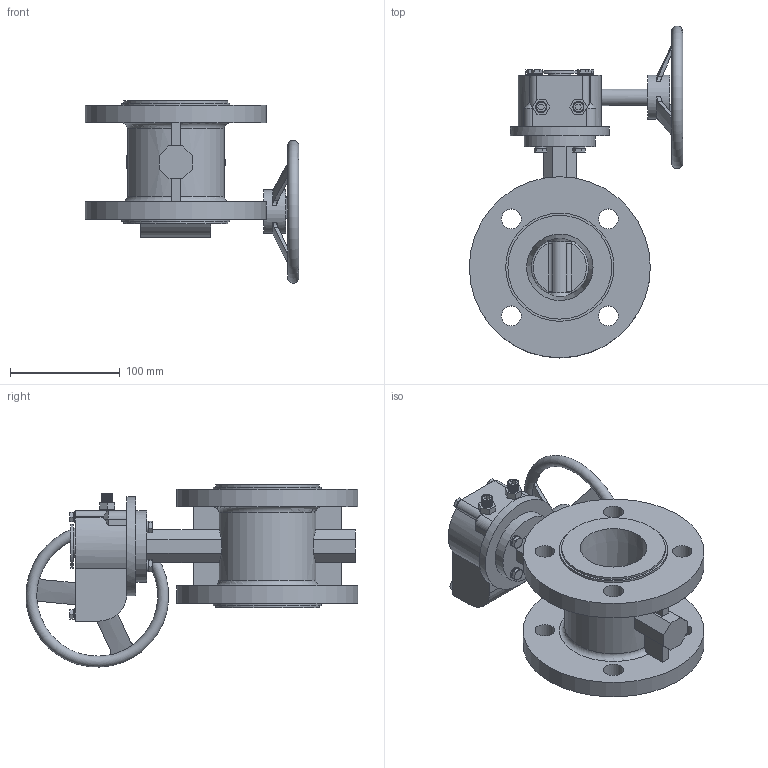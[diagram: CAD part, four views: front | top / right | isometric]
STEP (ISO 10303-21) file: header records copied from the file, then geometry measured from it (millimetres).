
FILE_DESCRIPTION (( 'STEP AP214' ), '1' );
FILE_NAME ('恦謫 邧楊擘評概 Fig.3226-204B-50-16.STEP', '2026-03-19T06:27:03', ( '' ), ( '' ), 'SwSTEP 2.0', 'SolidWorks 2024', '' );
FILE_SCHEMA (( 'AUTOMOTIVE_DESIGN' ));
Length unit declared in the file: millimetre
Products named in the file (1): 涡轮 双法兰蝶阀 Fig.3226-204B-50-16
Bounding box: 194.5 x 302.48 x 165.96 mm (x, y, z)
Volume: 1449375.2 mm3; surface area: 217089.7 mm2
Topology: 1 solids, 3 shells, 577 faces, 1462 edges, 952 vertices
Faces by surface type: plane 314, bspline 124, cylinder 88, cone 42, torus 9
Full cylindrical faces by diameter (mm): 6 x8, 6.68 x4, 7 x4, 10 x7, 10.68 x4, 15 x1, 18 x8, 20 x1, 30 x1, 40 x2, 50 x1, 65 x1, 90 x1, 94.6 x2, 98.6 x2, 165 x2
Entity records: 34904 total; most frequent: CARTESIAN_POINT 16046, ORIENTED_EDGE 2768, DIRECTION 2073, EDGE_CURVE 1384, VERTEX_POINT 923, EDGE_LOOP 725, VECTOR 719, LINE 719
